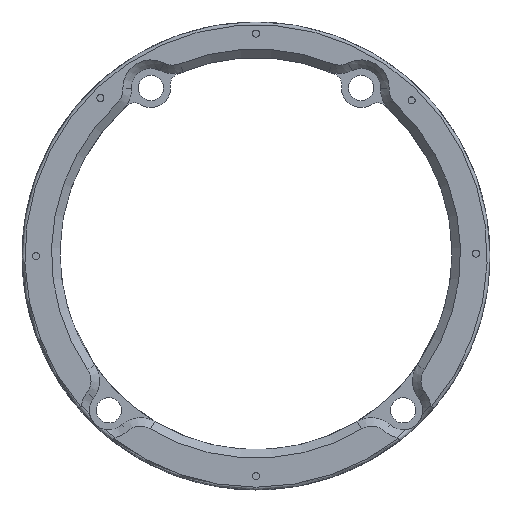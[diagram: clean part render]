
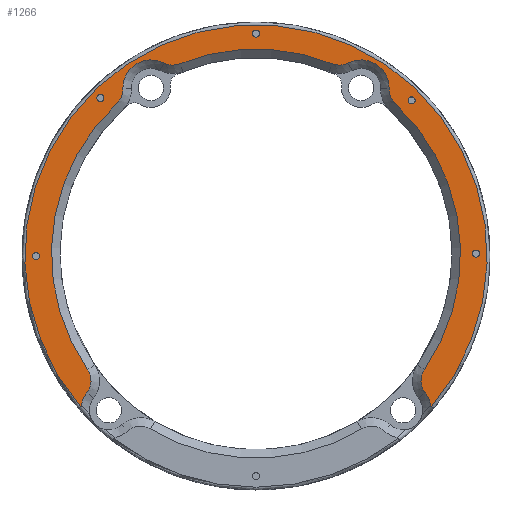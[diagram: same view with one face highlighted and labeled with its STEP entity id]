
A CAD part, top view. The second image highlights one B-rep face of the part: STEP entity #1266.
In plain terms, the highlighted planar face has unit normal (0, 0, 1).
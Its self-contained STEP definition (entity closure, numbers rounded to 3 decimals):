
#15=FACE_BOUND('',#299,.T.);
#16=FACE_BOUND('',#300,.T.);
#17=FACE_BOUND('',#301,.T.);
#18=FACE_BOUND('',#302,.T.);
#19=FACE_BOUND('',#303,.T.);
#30=PLANE('',#1366);
#218=FACE_OUTER_BOUND('',#298,.T.);
#298=EDGE_LOOP('',(#930,#931,#932,#933,#934,#935,#936,#937,#938,#939,#940,
#941,#942,#943,#944,#945));
#299=EDGE_LOOP('',(#946));
#300=EDGE_LOOP('',(#947));
#301=EDGE_LOOP('',(#948));
#302=EDGE_LOOP('',(#949));
#303=EDGE_LOOP('',(#950));
#408=B_SPLINE_CURVE_WITH_KNOTS('',3,(#2769,#2770,#2771,#2772,#2773,#2774),
 .UNSPECIFIED.,.F.,.F.,(4,2,4),(0.247,0.276,0.314),
 .UNSPECIFIED.);
#413=B_SPLINE_CURVE_WITH_KNOTS('',3,(#2932,#2933,#2934,#2935,#2936,#2937),
 .UNSPECIFIED.,.F.,.F.,(4,2,4),(0.,0.031,0.05),
 .UNSPECIFIED.);
#426=CIRCLE('',#1354,82.5);
#434=CIRCLE('',#1365,10.);
#435=CIRCLE('',#1367,10.);
#436=CIRCLE('',#1368,7.);
#437=CIRCLE('',#1369,73.);
#438=CIRCLE('',#1370,7.);
#439=CIRCLE('',#1371,10.);
#440=CIRCLE('',#1372,7.);
#441=CIRCLE('',#1373,73.);
#442=CIRCLE('',#1374,7.);
#443=CIRCLE('',#1375,10.);
#444=CIRCLE('',#1376,7.);
#445=CIRCLE('',#1377,73.);
#446=CIRCLE('',#1378,7.);
#447=CIRCLE('',#1379,1.25);
#448=CIRCLE('',#1380,1.25);
#449=CIRCLE('',#1381,1.25);
#450=CIRCLE('',#1382,1.25);
#451=CIRCLE('',#1383,1.25);
#544=VERTEX_POINT('',#2489);
#545=VERTEX_POINT('',#2490);
#554=VERTEX_POINT('',#2768);
#559=VERTEX_POINT('',#2927);
#565=VERTEX_POINT('',#2970);
#566=VERTEX_POINT('',#2974);
#567=VERTEX_POINT('',#2976);
#568=VERTEX_POINT('',#2978);
#569=VERTEX_POINT('',#2980);
#570=VERTEX_POINT('',#2982);
#571=VERTEX_POINT('',#2984);
#572=VERTEX_POINT('',#2986);
#573=VERTEX_POINT('',#2988);
#574=VERTEX_POINT('',#2990);
#575=VERTEX_POINT('',#2992);
#576=VERTEX_POINT('',#2994);
#577=VERTEX_POINT('',#2997);
#578=VERTEX_POINT('',#2999);
#579=VERTEX_POINT('',#3001);
#580=VERTEX_POINT('',#3003);
#581=VERTEX_POINT('',#3005);
#680=EDGE_CURVE('',#544,#545,#426,.T.);
#690=EDGE_CURVE('',#545,#554,#408,.T.);
#697=EDGE_CURVE('',#559,#544,#413,.T.);
#706=EDGE_CURVE('',#554,#565,#434,.T.);
#708=EDGE_CURVE('',#566,#559,#435,.T.);
#709=EDGE_CURVE('',#567,#566,#436,.T.);
#710=EDGE_CURVE('',#568,#567,#437,.T.);
#711=EDGE_CURVE('',#569,#568,#438,.T.);
#712=EDGE_CURVE('',#570,#569,#439,.T.);
#713=EDGE_CURVE('',#571,#570,#440,.T.);
#714=EDGE_CURVE('',#572,#571,#441,.T.);
#715=EDGE_CURVE('',#573,#572,#442,.T.);
#716=EDGE_CURVE('',#574,#573,#443,.T.);
#717=EDGE_CURVE('',#575,#574,#444,.T.);
#718=EDGE_CURVE('',#576,#575,#445,.T.);
#719=EDGE_CURVE('',#565,#576,#446,.T.);
#720=EDGE_CURVE('',#577,#577,#447,.T.);
#721=EDGE_CURVE('',#578,#578,#448,.T.);
#722=EDGE_CURVE('',#579,#579,#449,.T.);
#723=EDGE_CURVE('',#580,#580,#450,.T.);
#724=EDGE_CURVE('',#581,#581,#451,.T.);
#930=ORIENTED_EDGE('',*,*,#690,.F.);
#931=ORIENTED_EDGE('',*,*,#680,.F.);
#932=ORIENTED_EDGE('',*,*,#697,.F.);
#933=ORIENTED_EDGE('',*,*,#708,.F.);
#934=ORIENTED_EDGE('',*,*,#709,.F.);
#935=ORIENTED_EDGE('',*,*,#710,.F.);
#936=ORIENTED_EDGE('',*,*,#711,.F.);
#937=ORIENTED_EDGE('',*,*,#712,.F.);
#938=ORIENTED_EDGE('',*,*,#713,.F.);
#939=ORIENTED_EDGE('',*,*,#714,.F.);
#940=ORIENTED_EDGE('',*,*,#715,.F.);
#941=ORIENTED_EDGE('',*,*,#716,.F.);
#942=ORIENTED_EDGE('',*,*,#717,.F.);
#943=ORIENTED_EDGE('',*,*,#718,.F.);
#944=ORIENTED_EDGE('',*,*,#719,.F.);
#945=ORIENTED_EDGE('',*,*,#706,.F.);
#946=ORIENTED_EDGE('',*,*,#720,.T.);
#947=ORIENTED_EDGE('',*,*,#721,.T.);
#948=ORIENTED_EDGE('',*,*,#722,.T.);
#949=ORIENTED_EDGE('',*,*,#723,.T.);
#950=ORIENTED_EDGE('',*,*,#724,.T.);
#1266=ADVANCED_FACE('',(#218,#15,#16,#17,#18,#19),#30,.T.);
#1354=AXIS2_PLACEMENT_3D('',#2491,#1540,#1541);
#1365=AXIS2_PLACEMENT_3D('',#2971,#1564,#1565);
#1366=AXIS2_PLACEMENT_3D('',#2973,#1567,#1568);
#1367=AXIS2_PLACEMENT_3D('',#2975,#1569,#1570);
#1368=AXIS2_PLACEMENT_3D('',#2977,#1571,#1572);
#1369=AXIS2_PLACEMENT_3D('',#2979,#1573,#1574);
#1370=AXIS2_PLACEMENT_3D('',#2981,#1575,#1576);
#1371=AXIS2_PLACEMENT_3D('',#2983,#1577,#1578);
#1372=AXIS2_PLACEMENT_3D('',#2985,#1579,#1580);
#1373=AXIS2_PLACEMENT_3D('',#2987,#1581,#1582);
#1374=AXIS2_PLACEMENT_3D('',#2989,#1583,#1584);
#1375=AXIS2_PLACEMENT_3D('',#2991,#1585,#1586);
#1376=AXIS2_PLACEMENT_3D('',#2993,#1587,#1588);
#1377=AXIS2_PLACEMENT_3D('',#2995,#1589,#1590);
#1378=AXIS2_PLACEMENT_3D('',#2996,#1591,#1592);
#1379=AXIS2_PLACEMENT_3D('',#2998,#1593,#1594);
#1380=AXIS2_PLACEMENT_3D('',#3000,#1595,#1596);
#1381=AXIS2_PLACEMENT_3D('',#3002,#1597,#1598);
#1382=AXIS2_PLACEMENT_3D('',#3004,#1599,#1600);
#1383=AXIS2_PLACEMENT_3D('',#3006,#1601,#1602);
#1540=DIRECTION('center_axis',(0.,0.,-1.));
#1541=DIRECTION('ref_axis',(0.,1.,0.));
#1564=DIRECTION('center_axis',(0.,0.,1.));
#1565=DIRECTION('ref_axis',(0.864,-0.504,0.));
#1567=DIRECTION('center_axis',(0.,0.,1.));
#1568=DIRECTION('ref_axis',(-1.,0.,0.));
#1569=DIRECTION('center_axis',(0.,0.,1.));
#1570=DIRECTION('ref_axis',(-0.449,-0.894,0.));
#1571=DIRECTION('center_axis',(0.,0.,-1.));
#1572=DIRECTION('ref_axis',(1.,-0.031,0.));
#1573=DIRECTION('center_axis',(0.,0.,1.));
#1574=DIRECTION('ref_axis',(-1.,0.,0.));
#1575=DIRECTION('center_axis',(0.,0.,-1.));
#1576=DIRECTION('ref_axis',(0.923,-0.385,0.));
#1577=DIRECTION('center_axis',(0.,0.,1.));
#1578=DIRECTION('ref_axis',(0.634,0.773,0.));
#1579=DIRECTION('center_axis',(0.,0.,-1.));
#1580=DIRECTION('ref_axis',(-0.045,-0.999,0.));
#1581=DIRECTION('center_axis',(0.,0.,1.));
#1582=DIRECTION('ref_axis',(1.,0.,0.));
#1583=DIRECTION('center_axis',(0.,0.,-1.));
#1584=DIRECTION('ref_axis',(0.045,-0.999,0.));
#1585=DIRECTION('center_axis',(0.,0.,1.));
#1586=DIRECTION('ref_axis',(0.97,-0.244,0.));
#1587=DIRECTION('center_axis',(0.,0.,-1.));
#1588=DIRECTION('ref_axis',(-0.923,-0.385,0.));
#1589=DIRECTION('center_axis',(0.,0.,1.));
#1590=DIRECTION('ref_axis',(1.,0.,0.));
#1591=DIRECTION('center_axis',(0.,0.,-1.));
#1592=DIRECTION('ref_axis',(-1.,-0.031,0.));
#1593=DIRECTION('center_axis',(0.,0.,-1.));
#1594=DIRECTION('ref_axis',(1.,0.,0.));
#1595=DIRECTION('center_axis',(0.,0.,-1.));
#1596=DIRECTION('ref_axis',(1.,0.,0.));
#1597=DIRECTION('center_axis',(0.,0.,-1.));
#1598=DIRECTION('ref_axis',(1.,0.,0.));
#1599=DIRECTION('center_axis',(0.,0.,-1.));
#1600=DIRECTION('ref_axis',(1.,0.,0.));
#1601=DIRECTION('center_axis',(0.,0.,-1.));
#1602=DIRECTION('ref_axis',(1.,0.,0.));
#2489=CARTESIAN_POINT('',(-62.582,-54.615,18.));
#2490=CARTESIAN_POINT('',(62.582,-54.615,18.));
#2491=CARTESIAN_POINT('Origin',(0.,-0.859,18.));
#2768=CARTESIAN_POINT('',(62.353,-54.186,18.));
#2769=CARTESIAN_POINT('Ctrl Pts',(62.582,-54.615,18.));
#2770=CARTESIAN_POINT('Ctrl Pts',(62.527,-54.568,18.));
#2771=CARTESIAN_POINT('Ctrl Pts',(62.482,-54.512,18.));
#2772=CARTESIAN_POINT('Ctrl Pts',(62.399,-54.368,18.));
#2773=CARTESIAN_POINT('Ctrl Pts',(62.369,-54.278,18.));
#2774=CARTESIAN_POINT('Ctrl Pts',(62.353,-54.186,18.));
#2927=CARTESIAN_POINT('',(-62.353,-54.186,18.));
#2932=CARTESIAN_POINT('Ctrl Pts',(-62.353,-54.186,18.));
#2933=CARTESIAN_POINT('Ctrl Pts',(-62.371,-54.287,18.));
#2934=CARTESIAN_POINT('Ctrl Pts',(-62.404,-54.384,18.));
#2935=CARTESIAN_POINT('Ctrl Pts',(-62.493,-54.525,18.));
#2936=CARTESIAN_POINT('Ctrl Pts',(-62.534,-54.573,18.));
#2937=CARTESIAN_POINT('Ctrl Pts',(-62.582,-54.615,18.));
#2970=CARTESIAN_POINT('',(60.366,-49.718,18.));
#2971=CARTESIAN_POINT('Origin',(52.5,-55.892,18.));
#2973=CARTESIAN_POINT('Origin',(0.,-0.859,18.));
#2974=CARTESIAN_POINT('',(-60.366,-49.718,18.));
#2975=CARTESIAN_POINT('Origin',(-52.5,-55.892,18.));
#2976=CARTESIAN_POINT('',(-60.109,-41.424,18.));
#2977=CARTESIAN_POINT('Origin',(-65.873,-45.396,18.));
#2978=CARTESIAN_POINT('',(-49.724,53.447,18.));
#2979=CARTESIAN_POINT('Origin',(0.,0.,18.));
#2980=CARTESIAN_POINT('',(-47.495,58.793,18.));
#2981=CARTESIAN_POINT('Origin',(-54.492,58.572,18.));
#2982=CARTESIAN_POINT('',(-32.957,68.016,18.));
#2983=CARTESIAN_POINT('Origin',(-37.5,59.108,18.));
#2984=CARTESIAN_POINT('',(-27.171,67.755,18.));
#2985=CARTESIAN_POINT('Origin',(-29.776,74.252,18.));
#2986=CARTESIAN_POINT('',(27.171,67.755,18.));
#2987=CARTESIAN_POINT('Origin',(0.,0.,18.));
#2988=CARTESIAN_POINT('',(32.957,68.016,18.));
#2989=CARTESIAN_POINT('Origin',(29.776,74.252,18.));
#2990=CARTESIAN_POINT('',(47.495,58.793,18.));
#2991=CARTESIAN_POINT('Origin',(37.5,59.108,18.));
#2992=CARTESIAN_POINT('',(49.724,53.447,18.));
#2993=CARTESIAN_POINT('Origin',(54.492,58.572,18.));
#2994=CARTESIAN_POINT('',(60.109,-41.424,18.));
#2995=CARTESIAN_POINT('Origin',(0.,0.,18.));
#2996=CARTESIAN_POINT('Origin',(65.873,-45.396,18.));
#2997=CARTESIAN_POINT('',(-56.758,55.508,18.));
#2998=CARTESIAN_POINT('Origin',(-55.508,55.508,18.));
#2999=CARTESIAN_POINT('',(-1.25,78.5,18.));
#3000=CARTESIAN_POINT('Origin',(0.,78.5,18.));
#3001=CARTESIAN_POINT('',(77.25,0.,18.));
#3002=CARTESIAN_POINT('Origin',(78.5,0.,18.));
#3003=CARTESIAN_POINT('',(-79.75,-0.859,18.));
#3004=CARTESIAN_POINT('Origin',(-78.5,-0.859,18.));
#3005=CARTESIAN_POINT('',(54.258,54.649,18.));
#3006=CARTESIAN_POINT('Origin',(55.508,54.649,18.));
